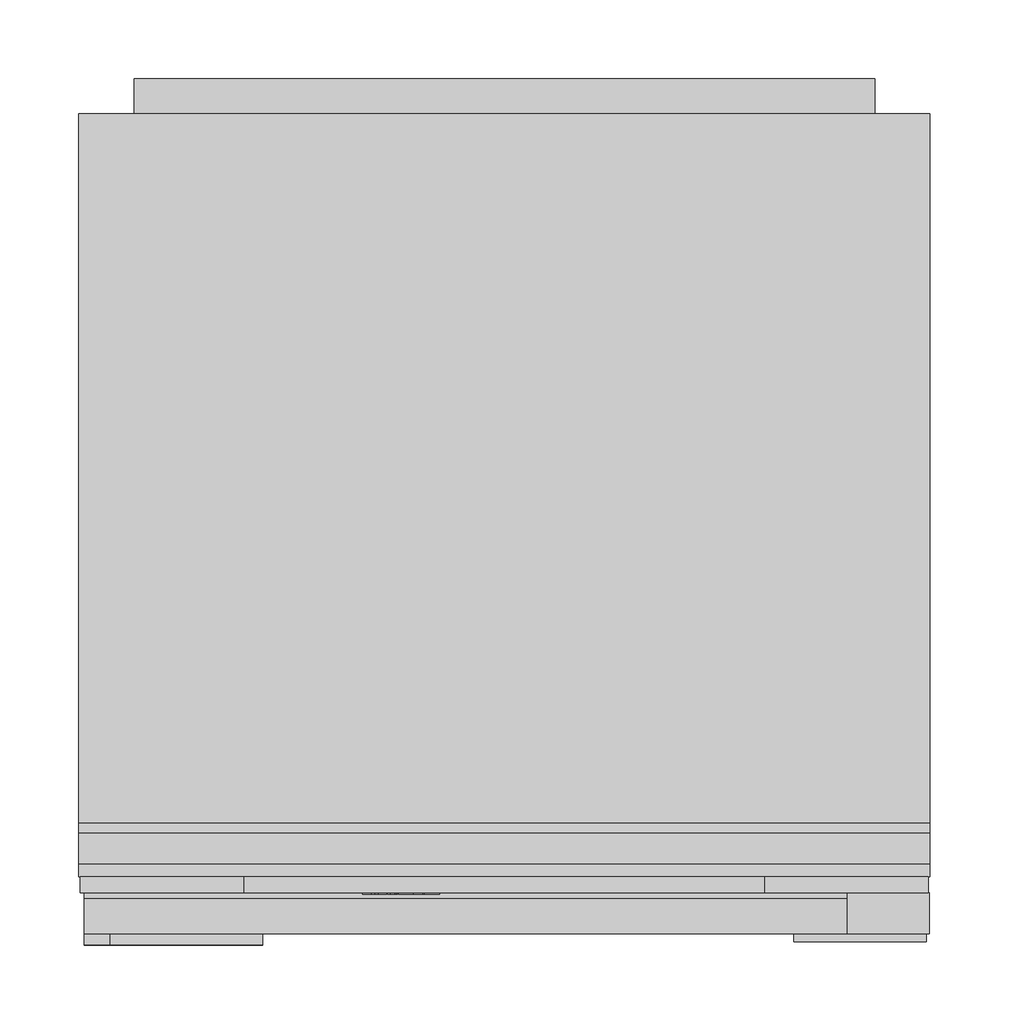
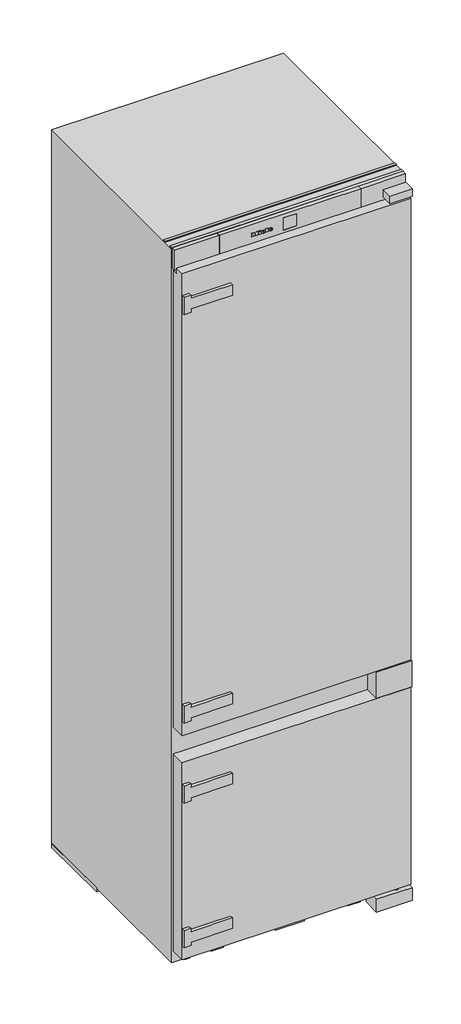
# Not in any storey: 1 proxy.
"""IFC4 building model written with IfcOpenShell, lengths in millimetres."""

import ifcopenshell
import ifcopenshell.guid

model = None  # the IFC model being written
_history = None  # IfcOwnerHistory: only IFC2X3 demands one
_inside = {}  # id of a spatial element -> (the spatial element, [elements in it])
_under = {}  # id of a project, library or spatial element -> (it, [spatial elements below it])
_declared = {}  # id of a project -> (the project, [libraries it declares])
_typed = {}  # id of a type object -> (the type object, [elements of that type])
_made_of = {}  # id of a material, layer set ... -> (it, [elements and type objects made of it])


def new_model(schema):
    """Start an empty IFC model of exactly this schema.

    Asked for "IFC4X3", IfcOpenShell would pick the latest addendum, in which some entities
    have other attributes; the version numbers below select the first issue.
    IFC2X3 requires an IfcOwnerHistory on every rooted entity: one is made here for all.
    """
    global model, _history
    if schema == "IFC4X3":
        model = ifcopenshell.file(schema_version=(4, 3, 0, 0))
    else:
        model = ifcopenshell.file(schema=schema)
    _inside.clear()
    _under.clear()
    _declared.clear()
    _typed.clear()
    _made_of.clear()
    _history = None
    if model.schema == "IFC2X3":
        org = make("IfcOrganization", Name="unknown")
        user = make(
            "IfcPersonAndOrganization",
            ThePerson=make("IfcPerson", FamilyName="unknown"),
            TheOrganization=org,
        )
        app = make(
            "IfcApplication",
            ApplicationDeveloper=org,
            Version="unknown",
            ApplicationFullName="unknown",
            ApplicationIdentifier="unknown",
        )
        _history = make(
            "IfcOwnerHistory",
            OwningUser=user,
            OwningApplication=app,
            ChangeAction="ADDED",
            CreationDate=0,
        )
    return model


def make(cls, **values):
    """One entity of the class cls with the attributes given. An attribute that is None is left unset."""
    return model.create_entity(
        cls, **{name: value for name, value in values.items() if value is not None}
    )


def rooted(cls, **values):
    """An entity with a GlobalId (a new one), such as an element, a storey or a relation."""
    return make(cls, GlobalId=ifcopenshell.guid.new(), OwnerHistory=_history, **values)


def si_unit(unit_type, name, prefix=None):
    """IfcSIUnit, for example si_unit("LENGTHUNIT", "METRE", prefix="MILLI")."""
    return make("IfcSIUnit", UnitType=unit_type, Prefix=prefix, Name=name)


def assignment(units):
    """IfcUnitAssignment: the units of a project."""
    return None if units is None else make("IfcUnitAssignment", Units=units)


def point(xyz):
    """IfcCartesianPoint."""
    return None if xyz is None else make("IfcCartesianPoint", Coordinates=xyz)


def direction(xyz):
    """IfcDirection."""
    return None if xyz is None else make("IfcDirection", DirectionRatios=xyz)


def frame(location, z_axis=None, x_axis=None):
    """IfcAxis2Placement3D, a coordinate frame: its origin and axes. An axis left out is left unset."""
    return make(
        "IfcAxis2Placement3D",
        Location=point(location),
        Axis=direction(z_axis),
        RefDirection=direction(x_axis),
    )


def frame_2d(location, x_axis=None):
    """IfcAxis2Placement2D, a coordinate frame in the plane: its origin and x axis."""
    return make(
        "IfcAxis2Placement2D", Location=point(location), RefDirection=direction(x_axis)
    )


def origin():
    """The frame at (0, 0, 0) with its axes left unset."""
    return frame((0.0, 0.0, 0.0))


def origin_with_axes():
    """The frame at (0, 0, 0) with the z axis (0, 0, 1) and the x axis (1, 0, 0) written out."""
    return frame((0.0, 0.0, 0.0), z_axis=(0.0, 0.0, 1.0), x_axis=(1.0, 0.0, 0.0))


def place(relative_to, where):
    """IfcLocalPlacement: puts the frame where relative to a parent placement (None: the world)."""
    return make(
        "IfcLocalPlacement", PlacementRelTo=relative_to, RelativePlacement=where
    )


def context(
    kind, dimensions, precision=None, world=None, true_north=None, identifier=None
):
    """IfcGeometricRepresentationContext, for example the 3D "Model" context."""
    return make(
        "IfcGeometricRepresentationContext",
        ContextIdentifier=identifier,
        ContextType=kind,
        CoordinateSpaceDimension=dimensions,
        Precision=precision,
        WorldCoordinateSystem=world,
        TrueNorth=true_north,
    )


def project(units=None, contexts=None):
    """IfcProject with its units and contexts."""
    return rooted(
        "IfcProject",
        Name="project",
        RepresentationContexts=contexts,
        UnitsInContext=assignment(units),
    )


def spatial(cls, under=None, at=None, **own):
    """A site, building, storey or space (cls), placed at a placement, below another one or the project."""
    s = rooted(cls, ObjectPlacement=at, **own)
    if under is not None:
        _under.setdefault(under.id(), (under, []))[1].append(s)
    return s


def polyline(points):
    """IfcPolyline through the points."""
    return make("IfcPolyline", Points=[point(p) for p in points])


def circle_curve(where, radius):
    """IfcCircle in the frame where."""
    return make("IfcCircle", Position=where, Radius=radius)


def ellipse_curve(where, semi_axis1, semi_axis2):
    """IfcEllipse in the frame where."""
    return make(
        "IfcEllipse", Position=where, SemiAxis1=semi_axis1, SemiAxis2=semi_axis2
    )


def trimmed(basis, trim1, trim2, sense, master):
    """IfcTrimmedCurve: the piece of a basis curve between two trims."""
    return make(
        "IfcTrimmedCurve",
        BasisCurve=basis,
        Trim1=trim1,
        Trim2=trim2,
        SenseAgreement=sense,
        MasterRepresentation=master,
    )


def segment(curve, same_sense, transition):
    """IfcCompositeCurveSegment."""
    return make(
        "IfcCompositeCurveSegment",
        Transition=transition,
        SameSense=same_sense,
        ParentCurve=curve,
    )


def composite_curve(segments, self_intersect=None):
    """IfcCompositeCurve: segments joined end to end."""
    return make("IfcCompositeCurve", Segments=segments, SelfIntersect=self_intersect)


def outline(outer, holes=None, kind="AREA"):
    """IfcArbitraryClosedProfileDef: a profile drawn as a closed curve; with holes, ...WithVoids."""
    if holes is None:
        return make("IfcArbitraryClosedProfileDef", ProfileType=kind, OuterCurve=outer)
    return make(
        "IfcArbitraryProfileDefWithVoids",
        ProfileType=kind,
        OuterCurve=outer,
        InnerCurves=holes,
    )


def extrude(swept, where, along, depth):
    """IfcExtrudedAreaSolid: the profile swept, set in the frame where, extruded along a direction by depth."""
    return make(
        "IfcExtrudedAreaSolid",
        SweptArea=swept,
        Position=where,
        ExtrudedDirection=direction(along),
        Depth=depth,
    )


def faces_of(points, faces, orient=None, outer=None):
    """IfcFace entities. A face is a list of loops; a loop is a list of indices into points, from 0.

    orient and outer hold one flag for each loop. By default every Orientation is true, the
    first loop of a face is its IfcFaceOuterBound and the others are IfcFaceBound.
    """
    made = []
    for i, loops in enumerate(faces):
        bounds = []
        for j, loop in enumerate(loops):
            is_outer = j == 0 if outer is None else outer[i][j]
            bounds.append(
                make(
                    "IfcFaceOuterBound" if is_outer else "IfcFaceBound",
                    Bound=make("IfcPolyLoop", Polygon=[points[k] for k in loop]),
                    Orientation=True if orient is None else orient[i][j],
                )
            )
        made.append(make("IfcFace", Bounds=bounds))
    return made


def faceted_brep(points, faces, orient=None, outer=None, voids=None):
    """IfcFacetedBrep: a solid bounded by flat faces; with voids (closed shells), ...WithVoids."""
    shared = [point(p) for p in points]
    hull = make("IfcClosedShell", CfsFaces=faces_of(shared, faces, orient, outer))
    if voids is None:
        return make("IfcFacetedBrep", Outer=hull)
    return make(
        "IfcFacetedBrepWithVoids",
        Outer=hull,
        Voids=[
            make(cls, CfsFaces=faces_of(shared, fs, o, b)) for cls, fs, o, b in voids
        ],
    )


def shape(context_of_items, identifier, shape_type, items):
    """IfcShapeRepresentation: the items that make up one representation, for example the "Body"."""
    return make(
        "IfcShapeRepresentation",
        ContextOfItems=context_of_items,
        RepresentationIdentifier=identifier,
        RepresentationType=shape_type,
        Items=items,
    )


def source(mapping_origin, context_of_items, identifier, shape_type, items):
    """IfcRepresentationMap: a shape defined once, which mapped items show again and again."""
    return make(
        "IfcRepresentationMap",
        MappingOrigin=mapping_origin,
        MappedRepresentation=shape(context_of_items, identifier, shape_type, items),
    )


def transform(
    local_origin,
    x_axis=None,
    y_axis=None,
    z_axis=None,
    scale=None,
    scale2=None,
    scale3=None,
    uniform=True,
):
    """IfcCartesianTransformationOperator3D, or its non-uniform kind. x_axis, y_axis, z_axis: its Axis1, 2, 3."""
    if uniform:
        return make(
            "IfcCartesianTransformationOperator3D",
            Axis1=direction(x_axis),
            Axis2=direction(y_axis),
            LocalOrigin=point(local_origin),
            Scale=scale,
            Axis3=direction(z_axis),
        )
    return make(
        "IfcCartesianTransformationOperator3DnonUniform",
        Axis1=direction(x_axis),
        Axis2=direction(y_axis),
        LocalOrigin=point(local_origin),
        Scale=scale,
        Axis3=direction(z_axis),
        Scale2=scale2,
        Scale3=scale3,
    )


def mapped(mapping_source, mapping_target):
    """IfcMappedItem: shows the shape of a source again, moved by a transform."""
    return make(
        "IfcMappedItem", MappingSource=mapping_source, MappingTarget=mapping_target
    )


def made_of(thing, what):
    """Note that an element or type object is made of a material, layer set ...; save() writes the relation."""
    if what is not None:
        _made_of.setdefault(what.id(), (what, []))[1].append(thing)
    return thing


def element(
    cls,
    number,
    at=None,
    inside=None,
    cuts=None,
    type_object=None,
    material=None,
    context=None,
    identifier="Body",
    shape_type=None,
    held_by="IfcProductDefinitionShape",
    body=None,
    shapes=None,
    **own,
):
    """One element of the class cls, such as IfcWall. Its Tag is "e" and its number.

    at: its placement. inside: the storey or other place that contains it. cuts: it is an
    opening in that element (IfcRelVoidsElement). A single representation is given by context,
    identifier, shape_type and body (its items); several are given by shapes. held_by: the class
    of the entity that holds the representations. save() writes the other relations.
    """
    e = rooted(cls, Tag="e%d" % number, ObjectPlacement=at, **own)
    if body is not None:
        shapes = [shape(context, identifier, shape_type, body)]
    if shapes is not None:
        e.Representation = make(held_by, Representations=shapes)
    if inside is not None:
        _inside.setdefault(inside.id(), (inside, []))[1].append(e)
    if cuts is not None:
        rooted(
            "IfcRelVoidsElement", RelatingBuildingElement=cuts, RelatedOpeningElement=e
        )
    if type_object is not None:
        _typed.setdefault(type_object.id(), (type_object, []))[1].append(e)
    return made_of(e, material)


def aggregate(whole, parts):
    """IfcRelAggregates: a whole, such as a stair, and the parts it consists of."""
    return rooted("IfcRelAggregates", RelatingObject=whole, RelatedObjects=parts)


def save(model, path):
    """Write the relations noted so far, then the file.

    IfcRelAggregates (storeys below a building ...), IfcRelContainedInSpatialStructure (elements
    in a storey), IfcRelDefinesByType, IfcRelAssociatesMaterial and IfcRelDeclares: one each for
    every whole, place, type object, material and project.
    """
    for whole, parts in _under.values():
        aggregate(whole, parts)
    for where, things in _inside.values():
        rooted(
            "IfcRelContainedInSpatialStructure",
            RelatedElements=things,
            RelatingStructure=where,
        )
    for kind, things in _typed.values():
        rooted("IfcRelDefinesByType", RelatedObjects=things, RelatingType=kind)
    for what, things in _made_of.values():
        rooted("IfcRelAssociatesMaterial", RelatedObjects=things, RelatingMaterial=what)
    for by, libraries in _declared.values():
        rooted("IfcRelDeclares", RelatingContext=by, RelatedDefinitions=libraries)
    model.write(path)


def plane_surface(at):
    """IfcPlane: the flat surface through the origin of the frame at, square to its z axis."""
    return make("IfcPlane", Position=at)


def cylinder_surface(at, radius):
    """IfcCylindricalSurface: all points at the distance radius from the z axis of the frame at."""
    return make("IfcCylindricalSurface", Position=at, Radius=radius)


def revolved_surface(curve, axis_point, axis_direction):
    """IfcSurfaceOfRevolution: the curve turned about the line through axis_point along axis_direction."""
    return make(
        "IfcSurfaceOfRevolution",
        SweptCurve=make("IfcArbitraryOpenProfileDef", ProfileType="CURVE", Curve=curve),
        AxisPosition=make("IfcAxis1Placement", Location=point(axis_point), Axis=direction(axis_direction)),
    )


def extruded_surface(curve, direction_of_extrusion, depth):
    """IfcSurfaceOfLinearExtrusion: the curve pushed along a direction by depth."""
    return make(
        "IfcSurfaceOfLinearExtrusion",
        SweptCurve=make("IfcArbitraryOpenProfileDef", ProfileType="CURVE", Curve=curve),
        ExtrudedDirection=direction(direction_of_extrusion),
        Depth=depth,
    )


def advanced_brep(points, edges, surfaces, faces):
    """IfcAdvancedBrep: a solid bounded by faces that lie on surfaces and meet in shared edges.

    An edge is (start, end): straight between two places in points (the first is 0);
    or (start, end, curve); or (start, end, curve, False) where it runs against its curve.
    A face is (place in surfaces, loops), or (place, loops, False) where it looks against
    its surface's normal. A loop lists edges by number (the first is 1), with a minus sign
    where the edge is run from its end to its start. The first loop is the outer one.
    """
    corners = [point(p) for p in points]
    vertices = [make("IfcVertexPoint", VertexGeometry=c) for c in corners]
    made = []
    for start, end, *more in edges:
        made.append(
            make(
                "IfcEdgeCurve",
                EdgeStart=vertices[start],
                EdgeEnd=vertices[end],
                EdgeGeometry=more[0] if more else make("IfcPolyline", Points=[corners[start], corners[end]]),
                SameSense=more[1] if len(more) > 1 else True,
            )
        )
    hull = []
    for where, loops, *sense in faces:
        bounds = []
        for j, loop in enumerate(loops):
            ring = [make("IfcOrientedEdge", EdgeElement=made[abs(k) - 1], Orientation=k > 0) for k in loop]
            bounds.append(
                make(
                    "IfcFaceOuterBound" if j == 0 else "IfcFaceBound",
                    Bound=make("IfcEdgeLoop", EdgeList=ring),
                    Orientation=True,
                )
            )
        hull.append(make("IfcAdvancedFace", Bounds=bounds, FaceSurface=surfaces[where], SameSense=sense[0] if sense else True))
    return make("IfcAdvancedBrep", Outer=make("IfcClosedShell", CfsFaces=hull))


def specialty_equipment_43fbed1b(model_context):
    return source(origin(), model_context, "Body", "SolidModel", [
        advanced_brep(
        [(-46.64, 32.0, 1742.896), (-46.64, 32.0, 1743.704), (-41.288, 32.0, 1743.704), (-50.6, 32.0, 1743.704), (-48.4, 32.0, 1741.0), (-41.424, 32.0, 1742.896), (-43.84, 32.0, 1742.896), (-45.744, 32.0, 1742.0), (-46.64, 32.0, 1744.728), (-46.64, 32.0, 1745.6), (-45.272, 32.0, 1745.6), (-45.272, 32.0, 1744.728), (-46.64, 33.0, 1742.896), (-45.744, 33.0, 1742.0), (-43.84, 33.0, 1742.896), (-41.424, 33.0, 1742.896), (-48.4, 33.0, 1741.0), (-50.6, 33.0, 1743.704), (-41.288, 33.0, 1743.704), (-46.64, 33.0, 1743.704), (-46.64, 33.0, 1744.728), (-45.272, 33.0, 1744.728), (-45.272, 33.0, 1745.6), (-46.64, 33.0, 1745.6)],
        [
            (0, 1),
            (1, 2),
            (2, 3, ellipse_curve(frame((-45.944, 32.0, 1743.704), z_axis=(0.0, -1.0, 0.0), x_axis=(-1.0, 0.0, 0.0)), 4.656, 3.848)),
            (3, 4, circle_curve(frame((-47.5039564, 32.0, 1743.976), z_axis=(0.0, -1.0, 0.0), x_axis=(0.0, 0.0, -1.0)), 3.1079688)),
            (4, 5, circle_curve(frame((-46.0372064, 32.0, 1746.088), z_axis=(0.0, -1.0, 0.0), x_axis=(0.0, 0.0, -1.0)), 5.6098607)),
            (5, 6),
            (6, 7, circle_curve(frame((-45.3529412, 32.0, 1743.64), z_axis=(0.0, 1.0, 0.0), x_axis=(0.0, 0.0, -1.0)), 1.6859795)),
            (7, 0, circle_curve(frame((-45.744, 32.0, 1742.896), z_axis=(0.0, 1.0, 0.0), x_axis=(0.0, 0.0, -1.0)), 0.896)),
            (8, 9),
            (9, 10, circle_curve(frame((-45.956, 32.0, 1745.6), z_axis=(0.0, 1.0, 0.0), x_axis=(0.0, 0.0, -1.0)), 0.684)),
            (10, 11),
            (11, 8),
            (12, 13, circle_curve(frame((-45.744, 33.0, 1742.896), z_axis=(0.0, -1.0, 0.0), x_axis=(0.0, 0.0, -1.0)), 0.896)),
            (13, 14, circle_curve(frame((-45.3529412, 33.0, 1743.64), z_axis=(0.0, -1.0, 0.0), x_axis=(0.0, 0.0, -1.0)), 1.6859795)),
            (14, 15),
            (15, 16, circle_curve(frame((-46.0372064, 33.0, 1746.088), z_axis=(0.0, 1.0, 0.0), x_axis=(0.0, 0.0, -1.0)), 5.6098607)),
            (16, 17, circle_curve(frame((-47.5039564, 33.0, 1743.976), z_axis=(0.0, 1.0, 0.0), x_axis=(0.0, 0.0, -1.0)), 3.1079688)),
            (17, 18, ellipse_curve(frame((-45.944, 33.0, 1743.704), z_axis=(0.0, 1.0, 0.0), x_axis=(-1.0, 0.0, 0.0)), 4.656, 3.848)),
            (18, 19),
            (19, 12),
            (20, 21),
            (21, 22),
            (22, 23, circle_curve(frame((-45.956, 33.0, 1745.6), z_axis=(0.0, -1.0, 0.0), x_axis=(0.0, 0.0, -1.0)), 0.684)),
            (23, 20),
            (0, 12),
            (19, 1),
            (18, 2),
            (5, 15),
            (14, 6),
            (17, 3),
            (13, 7),
            (16, 4),
            (8, 20),
            (23, 9),
            (22, 10),
            (21, 11),
        ],
        [
            plane_surface(frame((-46.64, 32.0, 1743.704), z_axis=(0.0, -1.0, 0.0), x_axis=(0.0, 0.0, 1.0))),
            plane_surface(frame((-46.64, 33.0, 1743.704), z_axis=(0.0, 1.0, 0.0), x_axis=(0.0, 0.0, -1.0))),
            plane_surface(frame((-46.64, 32.0, 1742.896), z_axis=(1.0, 0.0, 0.0), x_axis=(0.0, 1.0, 0.0))),
            plane_surface(frame((-46.64, 32.0, 1743.704), z_axis=(0.0, 0.0, -1.0), x_axis=(0.0, 1.0, 0.0))),
            plane_surface(frame((-41.424, 32.0, 1742.896), z_axis=(0.0, 0.0, 1.0), x_axis=(0.0, 1.0, 0.0))),
            extruded_surface(trimmed(ellipse_curve(frame((-45.944, 34.0, 1743.704), z_axis=(0.0, -1.0, 0.0), x_axis=(-1.0, 0.0, 0.0)), 4.656, 3.848), [point((-41.288, 34.0, 1743.704))], [point((-50.6, 34.0, 1743.704))], True, "CARTESIAN"), (0.0, -1.0, 0.0), 1.0),
            revolved_surface(polyline([(-45.3529412, 33.0, 1741.9540205), (-45.3529412, 32.0, 1741.9540205)]), (-45.3529412, 33.0, 1743.64), (0.0, 1.0, 0.0)),
            revolved_surface(polyline([(-45.744, 33.0, 1742.0), (-45.744, 32.0, 1742.0)]), (-45.744, 33.0, 1742.896), (0.0, 1.0, 0.0)),
            cylinder_surface(frame((-47.5039564, 33.0, 1743.976), z_axis=(0.0, -1.0, 0.0), x_axis=(0.0, 0.0, -1.0)), 3.1079688),
            cylinder_surface(frame((-46.0372064, 33.0, 1746.088), z_axis=(0.0, -1.0, 0.0), x_axis=(0.0, 0.0, -1.0)), 5.6098607),
            plane_surface(frame((-46.64, 32.0, 1744.728), z_axis=(1.0, 0.0, 0.0), x_axis=(0.0, 1.0, 0.0))),
            revolved_surface(polyline([(-45.956, 33.0, 1744.916), (-45.956, 32.0, 1744.916)]), (-45.956, 33.0, 1745.6), (0.0, 1.0, 0.0)),
            plane_surface(frame((-45.272, 32.0, 1745.6), z_axis=(-1.0, 0.0, 0.0), x_axis=(0.0, 1.0, 0.0))),
            plane_surface(frame((-45.272, 32.0, 1744.728), z_axis=(0.0, 0.0, 1.0), x_axis=(0.0, 1.0, 0.0))),
        ],
        [
            (0, [[1, 2, 3, 4, 5, 6, 7, 8], [9, 10, 11, 12]]),
            (1, [[13, 14, 15, 16, 17, 18, 19, 20], [21, 22, 23, 24]]),
            (2, [[-1, 25, -20, 26]]),
            (3, [[-2, -26, -19, 27]]),
            (4, [[-6, 28, -15, 29]]),
            (5, [[-3, -27, -18, 30]]),
            (6, [[-7, -29, -14, 31]]),
            (7, [[-8, -31, -13, -25]]),
            (8, [[-4, -30, -17, 32]]),
            (9, [[-5, -32, -16, -28]]),
            (10, [[-9, 33, -24, 34]]),
            (11, [[-10, -34, -23, 35]]),
            (12, [[-11, -35, -22, 36]]),
            (13, [[-12, -36, -21, -33]]),
        ],
    ),
        advanced_brep(
        [(-63.336, 32.0, 1742.896), (-63.336, 32.0, 1743.704), (-57.984, 32.0, 1743.704), (-67.296, 32.0, 1743.704), (-65.096, 32.0, 1741.0), (-58.12, 32.0, 1742.896), (-60.536, 32.0, 1742.896), (-62.44, 32.0, 1742.0), (-63.336, 32.0, 1744.728), (-63.336, 32.0, 1745.6), (-61.968, 32.0, 1745.6), (-61.968, 32.0, 1744.728), (-63.336, 33.0, 1742.896), (-62.44, 33.0, 1742.0), (-60.536, 33.0, 1742.896), (-58.12, 33.0, 1742.896), (-65.096, 33.0, 1741.0), (-67.296, 33.0, 1743.704), (-57.984, 33.0, 1743.704), (-63.336, 33.0, 1743.704), (-63.336, 33.0, 1744.728), (-61.968, 33.0, 1744.728), (-61.968, 33.0, 1745.6), (-63.336, 33.0, 1745.6)],
        [
            (0, 1),
            (1, 2),
            (2, 3, ellipse_curve(frame((-62.64, 32.0, 1743.704), z_axis=(0.0, -1.0, 0.0), x_axis=(-1.0, 0.0, 0.0)), 4.656, 3.848)),
            (3, 4, circle_curve(frame((-64.1999564, 32.0, 1743.976), z_axis=(0.0, -1.0, 0.0), x_axis=(0.0, 0.0, -1.0)), 3.1079688)),
            (4, 5, circle_curve(frame((-62.7332064, 32.0, 1746.088), z_axis=(0.0, -1.0, 0.0), x_axis=(0.0, 0.0, -1.0)), 5.6098607)),
            (5, 6),
            (6, 7, circle_curve(frame((-62.0489412, 32.0, 1743.64), z_axis=(0.0, 1.0, 0.0), x_axis=(0.0, 0.0, -1.0)), 1.6859795)),
            (7, 0, circle_curve(frame((-62.44, 32.0, 1742.896), z_axis=(0.0, 1.0, 0.0), x_axis=(0.0, 0.0, -1.0)), 0.896)),
            (8, 9),
            (9, 10, circle_curve(frame((-62.652, 32.0, 1745.6), z_axis=(0.0, 1.0, 0.0), x_axis=(0.0, 0.0, -1.0)), 0.684)),
            (10, 11),
            (11, 8),
            (12, 13, circle_curve(frame((-62.44, 33.0, 1742.896), z_axis=(0.0, -1.0, 0.0), x_axis=(0.0, 0.0, -1.0)), 0.896)),
            (13, 14, circle_curve(frame((-62.0489412, 33.0, 1743.64), z_axis=(0.0, -1.0, 0.0), x_axis=(0.0, 0.0, -1.0)), 1.6859795)),
            (14, 15),
            (15, 16, circle_curve(frame((-62.7332064, 33.0, 1746.088), z_axis=(0.0, 1.0, 0.0), x_axis=(0.0, 0.0, -1.0)), 5.6098607)),
            (16, 17, circle_curve(frame((-64.1999564, 33.0, 1743.976), z_axis=(0.0, 1.0, 0.0), x_axis=(0.0, 0.0, -1.0)), 3.1079688)),
            (17, 18, ellipse_curve(frame((-62.64, 33.0, 1743.704), z_axis=(0.0, 1.0, 0.0), x_axis=(-1.0, 0.0, 0.0)), 4.656, 3.848)),
            (18, 19),
            (19, 12),
            (20, 21),
            (21, 22),
            (22, 23, circle_curve(frame((-62.652, 33.0, 1745.6), z_axis=(0.0, -1.0, 0.0), x_axis=(0.0, 0.0, -1.0)), 0.684)),
            (23, 20),
            (0, 12),
            (19, 1),
            (18, 2),
            (5, 15),
            (14, 6),
            (17, 3),
            (13, 7),
            (16, 4),
            (8, 20),
            (23, 9),
            (22, 10),
            (21, 11),
        ],
        [
            plane_surface(frame((-63.336, 32.0, 1743.704), z_axis=(0.0, -1.0, 0.0), x_axis=(0.0, 0.0, 1.0))),
            plane_surface(frame((-63.336, 33.0, 1743.704), z_axis=(0.0, 1.0, 0.0), x_axis=(0.0, 0.0, -1.0))),
            plane_surface(frame((-63.336, 32.0, 1742.896), z_axis=(1.0, 0.0, 0.0), x_axis=(0.0, 1.0, 0.0))),
            plane_surface(frame((-63.336, 32.0, 1743.704), z_axis=(0.0, 0.0, -1.0), x_axis=(0.0, 1.0, 0.0))),
            plane_surface(frame((-58.12, 32.0, 1742.896), z_axis=(0.0, 0.0, 1.0), x_axis=(0.0, 1.0, 0.0))),
            extruded_surface(trimmed(ellipse_curve(frame((-62.64, 34.0, 1743.704), z_axis=(0.0, -1.0, 0.0), x_axis=(-1.0, 0.0, 0.0)), 4.656, 3.848), [point((-57.984, 34.0, 1743.704))], [point((-67.296, 34.0, 1743.704))], True, "CARTESIAN"), (0.0, -1.0, 0.0), 1.0),
            revolved_surface(polyline([(-62.0489412, 33.0, 1741.9540205), (-62.0489412, 32.0, 1741.9540205)]), (-62.0489412, 33.0, 1743.64), (0.0, 1.0, 0.0)),
            revolved_surface(polyline([(-62.44, 33.0, 1742.0), (-62.44, 32.0, 1742.0)]), (-62.44, 33.0, 1742.896), (0.0, 1.0, 0.0)),
            cylinder_surface(frame((-64.1999564, 33.0, 1743.976), z_axis=(0.0, -1.0, 0.0), x_axis=(0.0, 0.0, -1.0)), 3.1079688),
            cylinder_surface(frame((-62.7332064, 33.0, 1746.088), z_axis=(0.0, -1.0, 0.0), x_axis=(0.0, 0.0, -1.0)), 5.6098607),
            plane_surface(frame((-63.336, 32.0, 1744.728), z_axis=(1.0, 0.0, 0.0), x_axis=(0.0, 1.0, 0.0))),
            revolved_surface(polyline([(-62.652, 33.0, 1744.916), (-62.652, 32.0, 1744.916)]), (-62.652, 33.0, 1745.6), (0.0, 1.0, 0.0)),
            plane_surface(frame((-61.968, 32.0, 1745.6), z_axis=(-1.0, 0.0, 0.0), x_axis=(0.0, 1.0, 0.0))),
            plane_surface(frame((-61.968, 32.0, 1744.728), z_axis=(0.0, 0.0, 1.0), x_axis=(0.0, 1.0, 0.0))),
        ],
        [
            (0, [[1, 2, 3, 4, 5, 6, 7, 8], [9, 10, 11, 12]]),
            (1, [[13, 14, 15, 16, 17, 18, 19, 20], [21, 22, 23, 24]]),
            (2, [[-1, 25, -20, 26]]),
            (3, [[-2, -26, -19, 27]]),
            (4, [[-6, 28, -15, 29]]),
            (5, [[-3, -27, -18, 30]]),
            (6, [[-7, -29, -14, 31]]),
            (7, [[-8, -31, -13, -25]]),
            (8, [[-4, -30, -17, 32]]),
            (9, [[-5, -32, -16, -28]]),
            (10, [[-9, 33, -24, 34]]),
            (11, [[-10, -34, -23, 35]]),
            (12, [[-11, -35, -22, 36]]),
            (13, [[-12, -36, -21, -33]]),
        ],
    ),
        extrude(outline(polyline([(1748.528, -72.08), (1747.232, -71.472), (1748.496, -68.76), (1749.792, -69.36), (1748.528, -72.08)])), frame((0.0, 32.0, 0.0), z_axis=(0.0, 1.0, 0.0), x_axis=(0.0, 0.0, 1.0)), (0.0, 0.0, 1.0), 1.0),
        extrude(outline(polyline([(1747.056, -74.056), (1745.624, -74.056), (1745.624, -73.104), (1742.344, -73.104), (1742.344, -74.056), (1741.0, -74.056), (1741.0, -67.744), (1742.344, -67.744), (1742.344, -68.672), (1747.056, -68.672), (1747.056, -74.056)])), frame((0.0, 32.0, 0.0), z_axis=(0.0, 1.0, 0.0), x_axis=(0.0, 0.0, 1.0)), (0.0, 0.0, 1.0), 1.0),
        extrude(outline(polyline([(1747.696, -57.536), (1747.696, -56.576), (1742.344, -56.576), (1742.344, -57.536), (1741.0, -57.536), (1741.0, -51.048), (1742.344, -51.048), (1742.344, -52.032), (1749.0, -52.032), (1749.0, -57.536), (1747.696, -57.536)])), frame((0.0, 32.0, 0.0), z_axis=(0.0, 1.0, 0.0), x_axis=(0.0, 0.0, 1.0)), (0.0, 0.0, 1.0), 1.0),
        extrude(outline(polyline([(1747.696, -90.0), (1747.696, -89.032), (1742.344, -89.032), (1742.344, -90.0), (1741.0, -90.0), (1741.0, -86.48), (1742.344, -86.48), (1742.344, -87.44), (1745.7471247, -87.44), (1741.0, -83.864), (1745.8152223, -80.272), (1742.344, -80.272), (1742.344, -81.256), (1741.0, -81.256), (1741.0, -74.872), (1742.344, -74.872), (1742.344, -75.888), (1747.696, -75.888), (1747.696, -74.872), (1749.0, -74.872), (1749.0, -79.744), (1746.0, -82.08), (1749.0, -84.424), (1749.0, -90.0), (1747.696, -90.0)])), frame((0.0, 32.0, 0.0), z_axis=(0.0, 1.0, 0.0), x_axis=(0.0, 0.0, 1.0)), (0.0, 0.0, 1.0), 1.0),
        extrude(outline(polyline([(470.0, -250.5), (470.0, -266.5), (428.0, -266.5), (428.0, -250.5), (436.0, -250.5), (436.0, -153.5), (462.0, -153.5), (462.0, -250.5), (470.0, -250.5)])), frame((0.0, 0.0, 0.0), z_axis=(0.0, 1.0, 0.0), x_axis=(0.0, 0.0, 1.0)), (0.0, 0.0, 1.0), 7.0),
        extrude(outline(polyline([(114.0, -250.5), (114.0, -266.5), (72.0, -266.5), (72.0, -250.5), (80.0, -250.5), (80.0, -153.5), (106.0, -153.5), (106.0, -250.5), (114.0, -250.5)])), frame((0.0, 0.0, 0.0), z_axis=(0.0, 1.0, 0.0), x_axis=(0.0, 0.0, 1.0)), (0.0, 0.0, 1.0), 7.0),
        extrude(outline(polyline([(1631.0, -266.5), (1631.0, -250.5), (1639.0, -250.5), (1639.0, -153.5), (1665.0, -153.5), (1665.0, -250.5), (1673.0, -250.5), (1673.0, -266.5), (1631.0, -266.5)])), frame((0.0, 0.0, 0.0), z_axis=(0.0, 1.0, 0.0), x_axis=(0.0, 0.0, 1.0)), (0.0, 0.0, 1.0), 7.0),
        extrude(outline(polyline([(625.0, -266.5), (625.0, -250.5), (633.0, -250.5), (633.0, -153.5), (659.0, -153.5), (659.0, -250.5), (667.0, -250.5), (667.0, -266.5), (625.0, -266.5)])), frame((0.0, 0.0, 0.0), z_axis=(0.0, 1.0, 0.0), x_axis=(0.0, 0.0, 1.0)), (0.0, 0.0, 1.0), 7.0),
        extrude(outline(polyline([(7.0, 590.0), (7.0, 1727.0), (29.0, 1727.0), (29.0, 1715.0), (43.0, 1715.0), (43.0, 590.0), (7.0, 590.0)])), frame((-266.5, 0.0, 0.0), z_axis=(1.0, 0.0, 0.0), x_axis=(0.0, 1.0, 0.0)), (0.0, 0.0, 1.0), 533.0),
        extrude(outline(polyline([(268.5, 7.0), (186.5, 7.0), (186.5, 43.0), (268.5, 43.0), (268.5, 7.0)]), holes=[composite_curve([segment(trimmed(circle_curve(frame_2d((236.5, 16.0)), 6.0), [point((242.5, 16.0))], [point((230.5, 16.0))], True, "CARTESIAN"), True, "CONTINUOUS"), segment(trimmed(circle_curve(frame_2d((236.5, 16.0)), 6.0), [point((230.5, 16.0))], [point((242.5, 16.0))], True, "CARTESIAN"), True, "CONTINUOUS")], self_intersect=False)]), frame((0.0, 0.0, 523.0), z_axis=(0.0, 0.0, 1.0), x_axis=(1.0, 0.0, 0.0)), (0.0, 0.0, 1.0), 64.0),
        extrude(outline(polyline([(183.5, 43.0), (267.5, 43.0), (267.5, 2.0), (183.5, 2.0), (183.5, 43.0)])), frame((0.0, 0.0, 1.0), z_axis=(0.0, 0.0, 1.0), x_axis=(1.0, 0.0, 0.0)), (0.0, 0.0, 1.0), 31.0),
        extrude(outline(polyline([(269.5, 7.0), (217.5, 7.0), (217.5, 33.0), (269.5, 33.0), (269.5, 7.0)])), frame((0.0, 0.0, 1730.0), z_axis=(0.0, 0.0, 1.0), x_axis=(1.0, 0.0, 0.0)), (0.0, 0.0, 1.0), 19.0),
        extrude(outline(polyline([(-266.5, 43.0), (266.5, 43.0), (266.5, 7.0), (-266.5, 7.0), (-266.5, 43.0)])), frame((0.0, 0.0, 38.0), z_axis=(0.0, 0.0, 1.0), x_axis=(1.0, 0.0, 0.0)), (0.0, 0.0, 1.0), 485.0),
        extrude(outline(composite_curve([segment(trimmed(circle_curve(frame_2d((236.5, 16.0)), 6.0), [point((242.5, 16.0))], [point((230.5, 16.0))], False, "CARTESIAN"), True, "CONTINUOUS"), segment(trimmed(circle_curve(frame_2d((236.5, 16.0)), 6.0), [point((230.5, 16.0))], [point((242.5, 16.0))], False, "CARTESIAN"), True, "CONTINUOUS")], self_intersect=False)), frame((0.0, 0.0, 523.0), z_axis=(0.0, 0.0, 1.0), x_axis=(1.0, 0.0, 0.0)), (0.0, 0.0, 1.0), 67.0),
        extrude(outline(composite_curve([segment(trimmed(circle_curve(frame_2d((236.5, 16.0)), 6.0), [point((236.5, 22.0))], [point((236.5, 10.0))], False, "CARTESIAN"), True, "CONTINUOUS"), segment(trimmed(circle_curve(frame_2d((236.5, 16.0)), 6.0), [point((236.5, 10.0))], [point((236.5, 22.0))], False, "CARTESIAN"), True, "CONTINUOUS")], self_intersect=False)), frame((0.0, 0.0, 1727.0), z_axis=(0.0, 0.0, 1.0), x_axis=(1.0, 0.0, 0.0)), (0.0, 0.0, 1.0), 3.0),
        extrude(outline(composite_curve([segment(trimmed(circle_curve(frame_2d((236.5, 16.0)), 6.0), [point((242.5, 16.0))], [point((230.5, 16.0))], False, "CARTESIAN"), True, "CONTINUOUS"), segment(trimmed(circle_curve(frame_2d((236.5, 16.0)), 6.0), [point((230.5, 16.0))], [point((242.5, 16.0))], False, "CARTESIAN"), True, "CONTINUOUS")], self_intersect=False)), frame((0.0, 0.0, 32.0), z_axis=(0.0, 0.0, 1.0), x_axis=(1.0, 0.0, 0.0)), (0.0, 0.0, 1.0), 6.0),
        faceted_brep([(165.0, 33.0, 1770.0), (-165.0, 33.0, 1770.0), (-165.0, 33.0, 1721.0), (165.0, 33.0, 1721.0), (15.0, 33.0, 1761.0), (15.0, 33.0, 1731.0), (-15.0, 33.0, 1731.0), (-15.0, 33.0, 1761.0), (165.0, 43.0, 1770.0), (165.0, 43.0, 1721.0), (-165.0, 43.0, 1721.0), (-165.0, 43.0, 1770.0), (15.0, 34.0, 1761.0), (-15.0, 34.0, 1761.0), (-15.0, 34.0, 1731.0), (15.0, 34.0, 1731.0)], [[[0, 1, 2, 3], [4, 5, 6, 7]], [[8, 9, 10, 11]], [[0, 3, 9, 8]], [[3, 2, 10, 9]], [[2, 1, 11, 10]], [[1, 0, 8, 11]], [[12, 13, 14, 15]], [[12, 15, 5, 4]], [[15, 14, 6, 5]], [[14, 13, 7, 6]], [[13, 12, 4, 7]]]),
        extrude(outline(polyline([(165.0, 43.0), (269.0, 43.0), (269.0, 33.0), (165.0, 33.0), (165.0, 43.0)])), frame((0.0, 0.0, 1721.0), z_axis=(0.0, 0.0, 1.0), x_axis=(1.0, 0.0, 0.0)), (0.0, 0.0, 1.0), 49.0),
        extrude(outline(polyline([(-269.0, 43.0), (-165.0, 43.0), (-165.0, 33.0), (-269.0, 33.0), (-269.0, 43.0)])), frame((0.0, 0.0, 1721.0), z_axis=(0.0, 0.0, 1.0), x_axis=(1.0, 0.0, 0.0)), (0.0, 0.0, 1.0), 49.0),
        extrude(outline(polyline([(-15.0, 34.0), (15.0, 34.0), (15.0, 33.0), (-15.0, 33.0), (-15.0, 34.0)])), frame((0.0, 0.0, 1731.0), z_axis=(0.0, 0.0, 1.0), x_axis=(1.0, 0.0, 0.0)), (0.0, 0.0, 1.0), 30.0),
        extrude(outline(polyline([(1647.0, -235.0), (27.0, -235.0), (27.0, 235.0), (130.0, 235.0), (130.0, 180.0), (160.0, 180.0), (160.0, 235.0), (1647.0, 235.0), (1647.0, -235.0)])), frame((0.0, 527.0, 0.0), z_axis=(0.0, 1.0, 0.0), x_axis=(0.0, 0.0, 1.0)), (0.0, 0.0, 1.0), 22.0),
        extrude(outline(polyline([(-144.929185, 51.0), (-174.0, 51.0), (-194.6983363, 347.0), (-165.6275213, 347.0), (-144.929185, 51.0)])), origin_with_axes(), (0.0, 0.0, 1.0), 10.0),
        extrude(outline(polyline([(144.929185, 51.0), (165.6275213, 347.0), (194.6983363, 347.0), (174.0, 51.0), (144.929185, 51.0)])), origin_with_axes(), (0.0, 0.0, 1.0), 10.0),
        extrude(outline(polyline([(540.4384039, 149.874164), (547.6647626, 149.874164), (547.6647626, 139.824714), (540.2826236, 139.824714), (540.2826236, 141.0836119), (546.4056247, 141.0836119), (546.4056247, 144.3750411), (540.7614845, 144.3750411), (540.7614845, 145.6249589), (546.4056247, 145.6249589), (546.4056247, 148.6148402), (540.4384039, 148.6148402), (540.4384039, 149.874164)])), frame((194.0, 0.0, 0.0), z_axis=(1.0, 0.0, 0.0), x_axis=(0.0, 1.0, 0.0)), (0.0, 0.0, 1.0), 1.0),
        extrude(outline(polyline([(537.1383052, 149.8716162), (538.399354, 149.8716162), (538.399354, 139.824714), (532.1225656, 139.824714), (532.1225656, 141.0927041), (537.1383052, 141.0927041), (537.1383052, 149.8716162)])), frame((194.0, 0.0, 0.0), z_axis=(1.0, 0.0, 0.0), x_axis=(0.0, 1.0, 0.0)), (0.0, 0.0, 1.0), 1.0),
        advanced_brep(
        [(232.5, 527.0, 145.0), (217.5, 527.0, 145.0), (232.5, 548.5, 145.0), (217.5, 533.5, 145.0), (195.0, 548.5, 145.0), (195.0, 533.5, 145.0)],
        [
            (0, 1, circle_curve(frame((225.0, 527.0, 145.0), z_axis=(0.0, -1.0, 0.0), x_axis=(-1.0, 0.0, 0.0)), 7.5)),
            (1, 0, circle_curve(frame((225.0, 527.0, 145.0), z_axis=(0.0, -1.0, 0.0), x_axis=(-1.0, 0.0, 0.0)), 7.5)),
            (0, 2),
            (2, 3, ellipse_curve(frame((225.0, 541.0, 145.0), z_axis=(0.7071067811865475, -0.7071067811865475, 0.0), x_axis=(-0.7071067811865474, -0.7071067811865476, 0.0)), 10.6066017, 7.5)),
            (3, 1),
            (3, 2, ellipse_curve(frame((225.0, 541.0, 145.0), z_axis=(0.7071067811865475, -0.7071067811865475, 0.0), x_axis=(-0.7071067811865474, -0.7071067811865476, 0.0)), 10.6066017, 7.5)),
            (4, 5, circle_curve(frame((195.0, 541.0, 145.0), z_axis=(-1.0, 0.0, 0.0), x_axis=(0.0, -1.0, 0.0)), 7.5)),
            (5, 4, circle_curve(frame((195.0, 541.0, 145.0), z_axis=(-1.0, 0.0, 0.0), x_axis=(0.0, -1.0, 0.0)), 7.5)),
            (2, 4),
            (5, 3),
        ],
        [
            plane_surface(frame((225.0, 527.0, 145.0), z_axis=(0.0, -1.0, 0.0), x_axis=(0.0, 0.0, 1.0))),
            cylinder_surface(frame((225.0, 527.0, 145.0), z_axis=(0.0, -1.0, 0.0), x_axis=(-1.0, 0.0, 0.0)), 7.5),
            plane_surface(frame((195.0, 541.0, 145.0), z_axis=(-1.0, 0.0, 0.0), x_axis=(0.0, 0.0, 1.0))),
            cylinder_surface(frame((225.0, 541.0, 145.0), z_axis=(1.0, 0.0, 0.0), x_axis=(0.0, -1.0, 0.0)), 7.5),
        ],
        [
            (0, [[1, 2]]),
            (1, [[-1, 3, 4, 5]]),
            (1, [[-2, -5, 6, -3]]),
            (2, [[7, 8]]),
            (3, [[-4, 9, -8, 10]]),
            (3, [[-6, -10, -7, -9]]),
        ],
    ),
        extrude(outline(polyline([(-34.0, 43.0), (34.0, 43.0), (34.0, 34.0), (-34.0, 34.0), (-34.0, 43.0)])), frame((0.0, 0.0, 13.0), z_axis=(0.0, 0.0, 1.0), x_axis=(1.0, 0.0, 0.0)), (0.0, 0.0, 1.0), 19.0),
        extrude(outline(polyline([(270.0, 51.0), (270.0, 43.0), (-270.0, 43.0), (-270.0, 51.0), (270.0, 51.0)])), frame((0.0, 0.0, 1767.0), z_axis=(0.0, 0.0, 1.0), x_axis=(1.0, 0.0, 0.0)), (0.0, 0.0, 1.0), 3.0),
        extrude(outline(polyline([(270.0, 77.0), (270.0, 71.0), (-270.0, 71.0), (-270.0, 77.0), (270.0, 77.0)])), frame((0.0, 0.0, 1767.0), z_axis=(0.0, 0.0, 1.0), x_axis=(1.0, 0.0, 0.0)), (0.0, 0.0, 1.0), 3.0),
        extrude(outline(polyline([(-234.0, 43.0), (-234.0, 489.0), (234.0, 489.0), (234.0, 43.0), (-234.0, 43.0)])), frame((0.0, 0.0, 814.0), z_axis=(0.0, 0.0, 1.0), x_axis=(1.0, 0.0, 0.0)), (0.0, 0.0, 1.0), 3.0),
        extrude(outline(polyline([(-209.0, 311.0), (-209.0, 450.0), (209.0, 450.0), (209.0, 311.0), (-209.0, 311.0)])), frame((0.0, 0.0, 93.0), z_axis=(0.0, 0.0, 1.0), x_axis=(1.0, 0.0, 0.0)), (0.0, 0.0, 1.0), 200.0),
        extrude(outline(composite_curve([segment(trimmed(circle_curve(frame_2d((228.0, 63.0)), 11.0), [point((239.0, 63.0))], [point((217.0, 63.0))], False, "CARTESIAN"), True, "CONTINUOUS"), segment(trimmed(circle_curve(frame_2d((228.0, 63.0)), 11.0), [point((217.0, 63.0))], [point((239.0, 63.0))], False, "CARTESIAN"), True, "CONTINUOUS")], self_intersect=False)), origin_with_axes(), (0.0, 0.0, 1.0), 10.0),
        extrude(outline(composite_curve([segment(trimmed(circle_curve(frame_2d((-228.0, 63.0)), 11.0), [point((-217.0, 63.0))], [point((-239.0, 63.0))], False, "CARTESIAN"), True, "CONTINUOUS"), segment(trimmed(circle_curve(frame_2d((-228.0, 63.0)), 11.0), [point((-239.0, 63.0))], [point((-217.0, 63.0))], False, "CARTESIAN"), True, "CONTINUOUS")], self_intersect=False)), origin_with_axes(), (0.0, 0.0, 1.0), 10.0),
        extrude(outline(polyline([(270.0, 527.0), (270.0, 347.0), (-270.0, 347.0), (-270.0, 527.0), (270.0, 527.0)])), origin_with_axes(), (0.0, 0.0, 1.0), 10.0),
        faceted_brep([(270.0, 527.0, 1767.0), (-270.0, 527.0, 1767.0), (-270.0, 43.0, 1767.0), (270.0, 43.0, 1767.0), (270.0, 527.0, 10.0), (270.0, 43.0, 10.0), (-270.0, 43.0, 10.0), (-270.0, 527.0, 10.0), (234.0, 43.0, 1692.0), (234.0, 43.0, 619.0), (-234.0, 43.0, 619.0), (-234.0, 43.0, 1692.0), (209.0, 43.0, 473.0), (209.0, 43.0, 93.0), (-209.0, 43.0, 93.0), (-209.0, 43.0, 473.0), (234.0, 489.0, 1692.0), (-234.0, 489.0, 1692.0), (-234.0, 489.0, 619.0), (234.0, 489.0, 619.0), (209.0, 450.0, 473.0), (209.0, 450.0, 93.0), (-209.0, 450.0, 473.0), (-209.0, 450.0, 93.0)], [[[0, 1, 2, 3]], [[4, 5, 6, 7]], [[1, 0, 4, 7]], [[2, 1, 7, 6]], [[3, 2, 6, 5], [8, 9, 10, 11], [12, 13, 14, 15]], [[0, 3, 5, 4]], [[16, 17, 18, 19]], [[16, 19, 9, 8]], [[19, 18, 10, 9]], [[18, 17, 11, 10]], [[17, 16, 8, 11]], [[20, 21, 13, 12]], [[22, 15, 14, 23]], [[21, 20, 22, 23]], [[13, 21, 23, 14]], [[20, 12, 15, 22]]]),
    ])


model = new_model("IFC4")

# Units and contexts
model_context = context("Model", 3, world=origin())
ifc_project = project(units=[si_unit("LENGTHUNIT", "METRE", prefix="MILLI")], contexts=[model_context])

# Site, building
site = spatial("IfcSite", under=ifc_project)
building = spatial("IfcBuilding", under=site)

# Proxy
placement = place(None, origin())
specialty_equipment_shape = specialty_equipment_43fbed1b(model_context)
element("IfcBuildingElementProxy", 1, Name="11717290_OER_KF7731E : 38773100_OER_11717290_KF7731E", ObjectType="11717290_OER_KF7731E : 38773100_OER_11717290_KF7731E", at=placement, inside=building, context=model_context, shape_type="MappedRepresentation", body=[
    mapped(specialty_equipment_shape, transform((0.0, 0.0, 0.0), x_axis=(1.0, 0.0, 0.0), y_axis=(0.0, 1.0, 0.0), z_axis=(0.0, 0.0, 1.0))),
])

save(model, "model.ifc")
